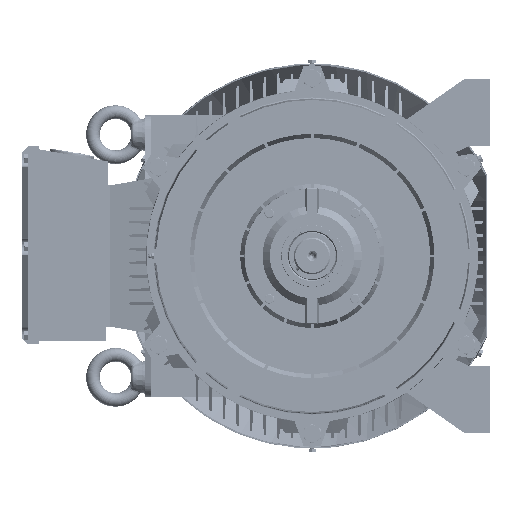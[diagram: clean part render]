
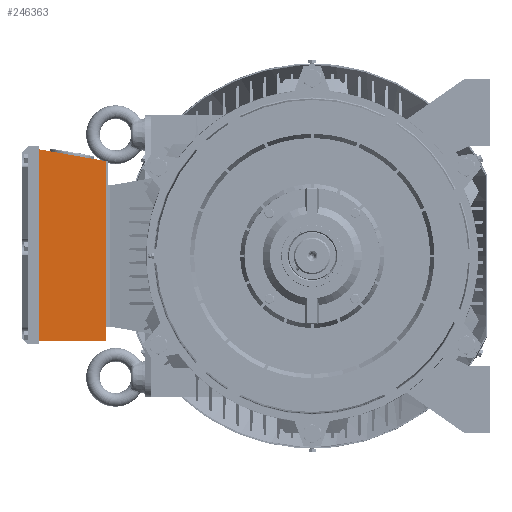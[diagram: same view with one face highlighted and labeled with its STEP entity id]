
A CAD part, left-side view. The second image highlights one B-rep face of the part: STEP entity #246363.
In plain terms, the highlighted planar face has unit normal (-1, 0, 0) as drawn and (0, 0, 1) by its records, which use the part's own axes.
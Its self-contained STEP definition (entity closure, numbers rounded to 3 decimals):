
#1216 = CARTESIAN_POINT ( 'NONE',  ( 0., 122., 140. ) ) ;
#6851 = LINE ( 'NONE', #194280, #123880 ) ;
#12591 = EDGE_LOOP ( 'NONE', ( #200100, #124034, #211193, #182269 ) ) ;
#17330 = VECTOR ( 'NONE', #238324, 1000. ) ;
#24769 = VERTEX_POINT ( 'NONE', #34142 ) ;
#27236 = LINE ( 'NONE', #103388, #17330 ) ;
#34142 = CARTESIAN_POINT ( 'NONE',  ( 340.012, 122., 140. ) ) ;
#39209 = EDGE_CURVE ( 'NONE', #24769, #46350, #6851, .T. ) ;
#45436 = CARTESIAN_POINT ( 'NONE',  ( 26., 122., 140. ) ) ;
#46350 = VERTEX_POINT ( 'NONE', #1216 ) ;
#49628 = LINE ( 'NONE', #217135, #181417 ) ;
#64301 = DIRECTION ( 'NONE',  ( -1., 0., 0. ) ) ;
#82529 = VERTEX_POINT ( 'NONE', #129705 ) ;
#103388 = CARTESIAN_POINT ( 'NONE',  ( 0., 3., 140. ) ) ;
#121604 = PLANE ( 'NONE',  #224202 ) ;
#123880 = VECTOR ( 'NONE', #64301, 1000. ) ;
#124034 = ORIENTED_EDGE ( 'NONE', *, *, #235712, .T. ) ;
#129705 = CARTESIAN_POINT ( 'NONE',  ( 0., 3., 140. ) ) ;
#134402 = VECTOR ( 'NONE', #229373, 1000. ) ;
#143650 = VERTEX_POINT ( 'NONE', #158925 ) ;
#153168 = CARTESIAN_POINT ( 'NONE',  ( 0., 3., 140. ) ) ;
#158925 = CARTESIAN_POINT ( 'NONE',  ( 319.029, 3., 140. ) ) ;
#181417 = VECTOR ( 'NONE', #198371, 1000. ) ;
#182269 = ORIENTED_EDGE ( 'NONE', *, *, #219483, .T. ) ;
#193109 = LINE ( 'NONE', #153168, #134402 ) ;
#194173 = DIRECTION ( 'NONE',  ( 0., 0., 1. ) ) ;
#194280 = CARTESIAN_POINT ( 'NONE',  ( 0., 122., 140. ) ) ;
#196387 = EDGE_CURVE ( 'NONE', #82529, #143650, #193109, .T. ) ;
#198371 = DIRECTION ( 'NONE',  ( 0.174, 0.985, 0. ) ) ;
#200100 = ORIENTED_EDGE ( 'NONE', *, *, #196387, .T. ) ;
#211193 = ORIENTED_EDGE ( 'NONE', *, *, #39209, .T. ) ;
#215403 = FACE_OUTER_BOUND ( 'NONE', #12591, .T. ) ;
#217135 = CARTESIAN_POINT ( 'NONE',  ( 318.5, 0., 140. ) ) ;
#219483 = EDGE_CURVE ( 'NONE', #46350, #82529, #27236, .T. ) ;
#224202 = AXIS2_PLACEMENT_3D ( 'NONE', #45436, #194173, #235379 ) ;
#229373 = DIRECTION ( 'NONE',  ( 1., 0., 0. ) ) ;
#235379 = DIRECTION ( 'NONE',  ( 1., 0., 0. ) ) ;
#235712 = EDGE_CURVE ( 'NONE', #143650, #24769, #49628, .T. ) ;
#238324 = DIRECTION ( 'NONE',  ( 0., -1., 0. ) ) ;
#246363 = ADVANCED_FACE ( 'NONE', ( #215403 ), #121604, .T. ) ;
